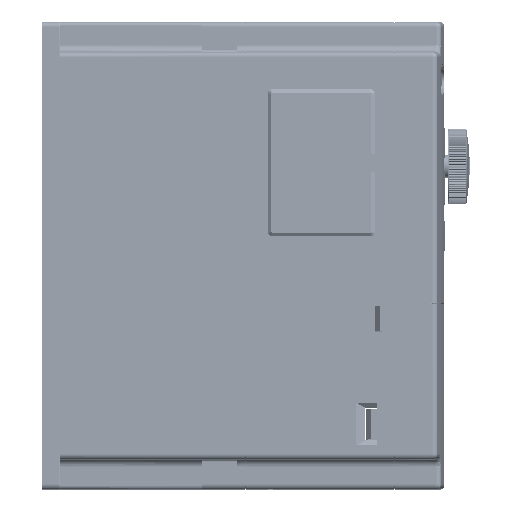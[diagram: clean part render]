
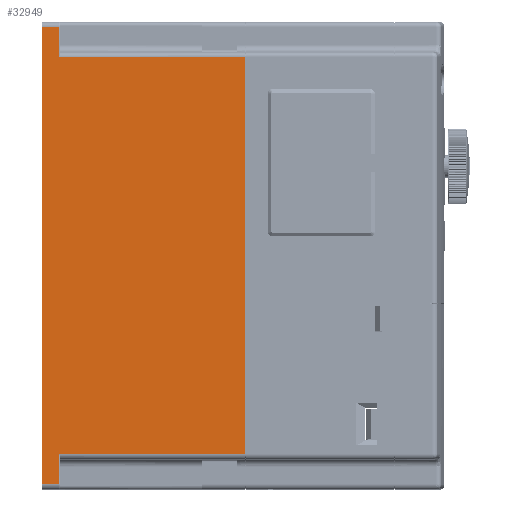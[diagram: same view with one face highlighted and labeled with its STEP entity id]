
A CAD part, top view. The second image highlights one B-rep face of the part: STEP entity #32949.
In plain terms, the highlighted planar face has unit normal (0, 0, 1).
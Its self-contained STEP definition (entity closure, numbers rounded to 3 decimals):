
#622=DIRECTION('',(0.,-1.,0.));
#623=VECTOR('',#622,182.);
#624=CARTESIAN_POINT('',(0.,184.,62.5));
#625=LINE('',#624,#623);
#4560=DIRECTION('',(0.,-1.,0.));
#4561=VECTOR('',#4560,12.);
#4562=CARTESIAN_POINT('',(6.7,14.,62.5));
#4563=LINE('',#4562,#4561);
#4567=DIRECTION('',(-1.,0.,0.));
#4568=VECTOR('',#4567,6.7);
#4569=CARTESIAN_POINT('',(6.7,2.,62.5));
#4570=LINE('',#4569,#4568);
#4574=DIRECTION('',(-1.,0.,0.));
#4575=VECTOR('',#4574,6.7);
#4576=CARTESIAN_POINT('',(6.7,184.,62.5));
#4577=LINE('',#4576,#4575);
#4581=DIRECTION('',(0.,-1.,0.));
#4582=VECTOR('',#4581,12.);
#4583=CARTESIAN_POINT('',(6.7,184.,62.5));
#4584=LINE('',#4583,#4582);
#4588=DIRECTION('',(0.,-1.,0.));
#4589=VECTOR('',#4588,158.);
#4590=CARTESIAN_POINT('',(80.6,172.,62.5));
#4591=LINE('',#4590,#4589);
#8206=DIRECTION('',(1.,0.,0.));
#8207=VECTOR('',#8206,73.9);
#8208=CARTESIAN_POINT('',(6.7,14.,62.5));
#8209=LINE('',#8208,#8207);
#24462=DIRECTION('',(-1.,0.,0.));
#24463=VECTOR('',#24462,73.9);
#24464=CARTESIAN_POINT('',(80.6,172.,62.5));
#24465=LINE('',#24464,#24463);
#26237=CARTESIAN_POINT('',(0.,184.,62.5));
#26239=VERTEX_POINT('',#26237);
#26246=CARTESIAN_POINT('',(0.,2.,62.5));
#26248=VERTEX_POINT('',#26246);
#26684=CARTESIAN_POINT('',(80.6,172.,62.5));
#26685=CARTESIAN_POINT('',(80.6,14.,62.5));
#26686=VERTEX_POINT('',#26684);
#26687=VERTEX_POINT('',#26685);
#29062=CARTESIAN_POINT('',(6.7,2.,62.5));
#29063=VERTEX_POINT('',#29062);
#29066=CARTESIAN_POINT('',(6.7,14.,62.5));
#29067=VERTEX_POINT('',#29066);
#29068=CARTESIAN_POINT('',(6.7,184.,62.5));
#29069=CARTESIAN_POINT('',(6.7,172.,62.5));
#29070=VERTEX_POINT('',#29068);
#29071=VERTEX_POINT('',#29069);
#32928=CARTESIAN_POINT('',(0.,186.,62.5));
#32929=DIRECTION('',(0.,0.,1.));
#32930=DIRECTION('',(0.,-1.,0.));
#32931=AXIS2_PLACEMENT_3D('',#32928,#32929,#32930);
#32932=PLANE('',#32931);
#32934=ORIENTED_EDGE('',*,*,#32933,.T.);
#32936=ORIENTED_EDGE('',*,*,#32935,.T.);
#32937=ORIENTED_EDGE('',*,*,#29703,.F.);
#32939=ORIENTED_EDGE('',*,*,#32938,.F.);
#32941=ORIENTED_EDGE('',*,*,#32940,.T.);
#32943=ORIENTED_EDGE('',*,*,#32942,.F.);
#32944=ORIENTED_EDGE('',*,*,#32834,.T.);
#32946=ORIENTED_EDGE('',*,*,#32945,.F.);
#32947=EDGE_LOOP('',(#32934,#32936,#32937,#32939,#32941,#32943,#32944,#32946));
#32948=FACE_OUTER_BOUND('',#32947,.F.);
#32949=ADVANCED_FACE('',(#32948),#32932,.T.);
#29703=EDGE_CURVE('',#26239,#26248,#625,.T.);
#32834=EDGE_CURVE('',#26686,#26687,#4591,.T.);
#32933=EDGE_CURVE('',#29067,#29063,#4563,.T.);
#32935=EDGE_CURVE('',#29063,#26248,#4570,.T.);
#32938=EDGE_CURVE('',#29070,#26239,#4577,.T.);
#32940=EDGE_CURVE('',#29070,#29071,#4584,.T.);
#32942=EDGE_CURVE('',#26686,#29071,#24465,.T.);
#32945=EDGE_CURVE('',#29067,#26687,#8209,.T.);
